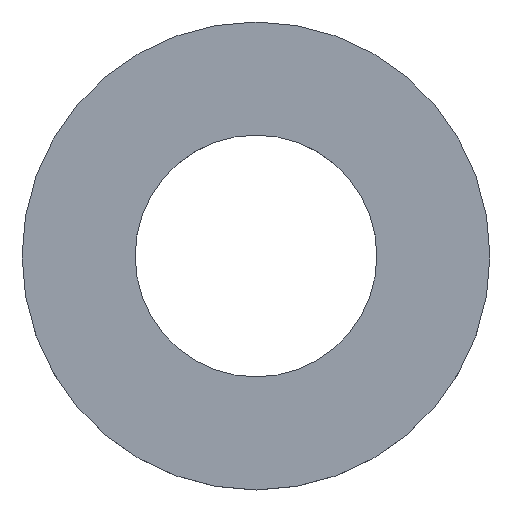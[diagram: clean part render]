
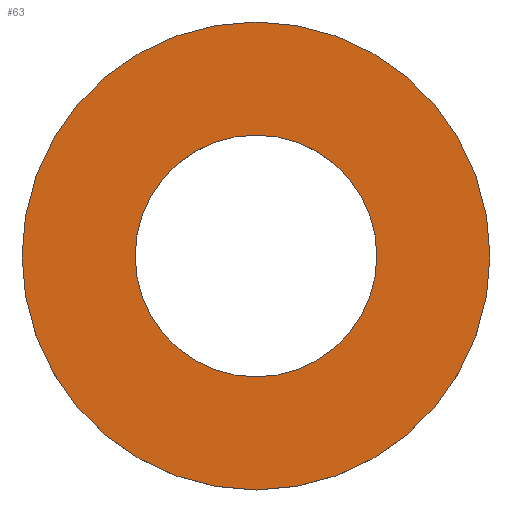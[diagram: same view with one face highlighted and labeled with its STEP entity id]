
A CAD part, top view. The second image highlights one B-rep face of the part: STEP entity #63.
In plain terms, the highlighted planar face has unit normal (0, 0, 1).
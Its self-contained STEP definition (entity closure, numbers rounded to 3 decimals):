
#15=FACE_BOUND('',#26,.T.);
#17=PLANE('',#91);
#21=FACE_OUTER_BOUND('',#25,.T.);
#25=EDGE_LOOP('',(#55));
#26=EDGE_LOOP('',(#56));
#34=CIRCLE('',#87,3.1);
#36=CIRCLE('',#90,6.);
#38=VERTEX_POINT('',#117);
#40=VERTEX_POINT('',#123);
#43=EDGE_CURVE('',#38,#38,#34,.T.);
#46=EDGE_CURVE('',#40,#40,#36,.T.);
#55=ORIENTED_EDGE('',*,*,#46,.T.);
#56=ORIENTED_EDGE('',*,*,#43,.T.);
#63=ADVANCED_FACE('',(#21,#15),#17,.T.);
#87=AXIS2_PLACEMENT_3D('',#119,#100,#101);
#90=AXIS2_PLACEMENT_3D('',#125,#107,#108);
#91=AXIS2_PLACEMENT_3D('',#126,#109,#110);
#100=DIRECTION('center_axis',(0.,0.,-1.));
#101=DIRECTION('ref_axis',(-1.,0.,0.));
#107=DIRECTION('center_axis',(0.,0.,1.));
#108=DIRECTION('ref_axis',(1.,0.,0.));
#109=DIRECTION('center_axis',(0.,0.,1.));
#110=DIRECTION('ref_axis',(1.,0.,0.));
#117=CARTESIAN_POINT('',(3.1,0.,0.));
#119=CARTESIAN_POINT('Origin',(0.,0.,0.));
#123=CARTESIAN_POINT('',(-6.,0.,0.));
#125=CARTESIAN_POINT('Origin',(0.,0.,0.));
#126=CARTESIAN_POINT('Origin',(0.,0.,0.));
